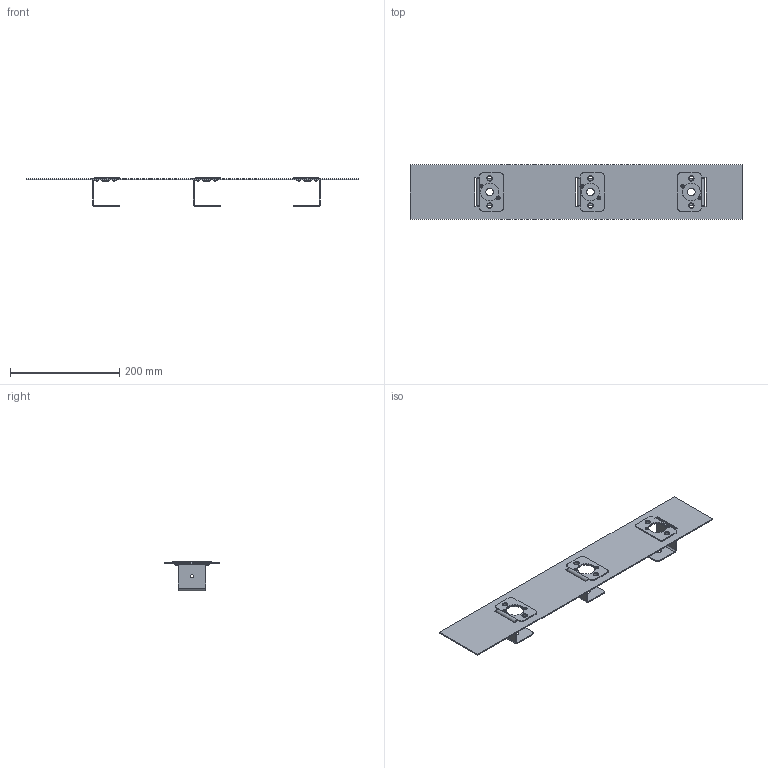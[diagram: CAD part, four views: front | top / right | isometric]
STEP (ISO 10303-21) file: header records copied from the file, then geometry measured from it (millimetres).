
FILE_DESCRIPTION (( 'STEP AP214' ), '1' );
FILE_NAME ('ADAPTER_00_NA_185_954011_-_0.STEP', '2021-08-24T09:35:22', ( '' ), ( '' ), 'SwSTEP 2.0', 'SolidWorks 2015', '' );
FILE_SCHEMA (( 'AUTOMOTIVE_DESIGN' ));
Length unit declared in the file: millimetre
Products named in the file (7): MATICE_076125_i_0_Z03-pro sestavu; Podlozka_CSN_021702_3_2_3112102017_-_0_Podlo§ka B 3.20 ¬SN 021702; PAS_PRIVODNI_960800_-_0_Z00; PAS_PRIVODNI_STREDNI_597460_-_0_Z00; ADAPTER_00_NA_185_954011_-_0; DESKA_185_504706_-_0_Z00; NYT_TRHACI_3_2x8_DIN7337_NA012877_-_0_FD00
Assembly tree (19 placements, depth 3):
  ADAPTER_00_NA_185_954011_-_0
    DESKA_185_504706_-_0_Z00
    PAS_PRIVODNI_960800_-_0_Z00  x3
      PAS_PRIVODNI_STREDNI_597460_-_0_Z00
      MATICE_076125_i_0_Z03-pro sestavu
    NYT_TRHACI_3_2x8_DIN7337_NA012877_-_0_FD00  x6
    Podlozka_CSN_021702_3_2_3112102017_-_0_Podlo§ka B 3.20 ¬SN 021702  x6
Bounding box: 609 x 99.5 x 54.5 mm (x, y, z)
Volume: 155157 mm3; surface area: 165471.4 mm2
Topology: 22 solids, 22 shells, 429 faces, 963 edges, 614 vertices
Faces by surface type: cylinder 207, plane 162, cone 24, torus 24, sphere 12
Entity records: 4867 total; most frequent: DIRECTION 841, CARTESIAN_POINT 751, ORIENTED_EDGE 712, EDGE_CURVE 356, AXIS2_PLACEMENT_3D 320, VERTEX_POINT 230, VECTOR 201, LINE 201
